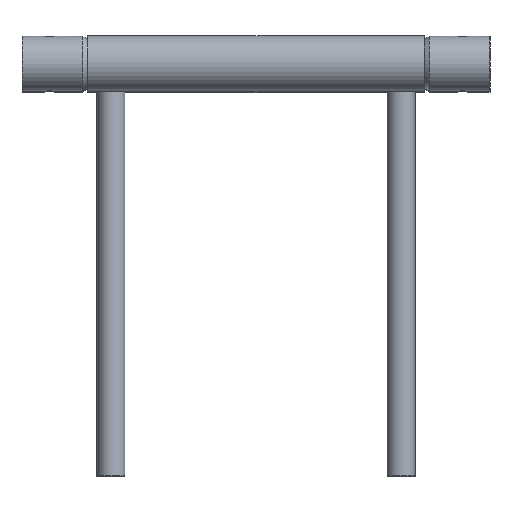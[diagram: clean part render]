
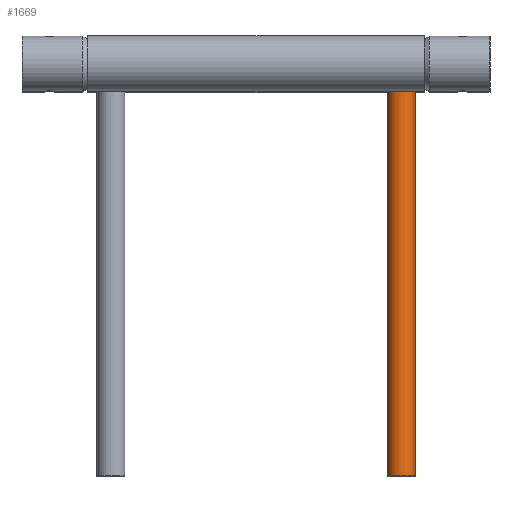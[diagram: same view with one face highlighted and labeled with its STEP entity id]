
A CAD part, top view. The second image highlights one B-rep face of the part: STEP entity #1669.
In plain terms, the highlighted cylindrical face has radius 15 mm (diameter 30 mm), a full revolution.
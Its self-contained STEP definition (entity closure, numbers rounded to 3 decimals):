
#108=FACE_BOUND('',#307,.T.);
#156=CYLINDRICAL_SURFACE('',#1811,15.);
#200=FACE_OUTER_BOUND('',#306,.T.);
#306=EDGE_LOOP('',(#1106,#1107));
#307=EDGE_LOOP('',(#1108,#1109));
#458=CIRCLE('',#1800,15.);
#459=CIRCLE('',#1802,15.);
#464=CIRCLE('',#1808,15.);
#465=CIRCLE('',#1810,15.);
#694=VERTEX_POINT('',#2489);
#695=VERTEX_POINT('',#2490);
#696=VERTEX_POINT('',#2494);
#698=VERTEX_POINT('',#2497);
#853=EDGE_CURVE('',#695,#694,#458,.T.);
#855=EDGE_CURVE('',#698,#696,#459,.T.);
#863=EDGE_CURVE('',#696,#698,#464,.T.);
#864=EDGE_CURVE('',#694,#695,#465,.T.);
#1106=ORIENTED_EDGE('',*,*,#864,.T.);
#1107=ORIENTED_EDGE('',*,*,#853,.T.);
#1108=ORIENTED_EDGE('',*,*,#863,.T.);
#1109=ORIENTED_EDGE('',*,*,#855,.T.);
#1669=ADVANCED_FACE('',(#200,#108),#156,.T.);
#1800=AXIS2_PLACEMENT_3D('',#2492,#2032,#2033);
#1802=AXIS2_PLACEMENT_3D('',#2498,#2037,#2038);
#1808=AXIS2_PLACEMENT_3D('',#2512,#2052,#2053);
#1810=AXIS2_PLACEMENT_3D('',#2514,#2056,#2057);
#1811=AXIS2_PLACEMENT_3D('',#2515,#2058,#2059);
#2032=DIRECTION('center_axis',(0.,1.,0.));
#2033=DIRECTION('ref_axis',(-1.,0.,0.));
#2037=DIRECTION('center_axis',(0.,-1.,0.));
#2038=DIRECTION('ref_axis',(-1.,0.,0.));
#2052=DIRECTION('center_axis',(0.,-1.,0.));
#2053=DIRECTION('ref_axis',(-1.,0.,0.));
#2056=DIRECTION('center_axis',(0.,1.,0.));
#2057=DIRECTION('ref_axis',(-1.,0.,0.));
#2058=DIRECTION('center_axis',(0.,1.,0.));
#2059=DIRECTION('ref_axis',(-1.,0.,0.));
#2489=CARTESIAN_POINT('',(420.,30.,0.));
#2490=CARTESIAN_POINT('',(390.,30.,0.));
#2492=CARTESIAN_POINT('Origin',(405.,30.,0.));
#2494=CARTESIAN_POINT('',(420.,440.,0.));
#2497=CARTESIAN_POINT('',(390.,440.,0.));
#2498=CARTESIAN_POINT('Origin',(405.,440.,0.));
#2512=CARTESIAN_POINT('Origin',(405.,440.,0.));
#2514=CARTESIAN_POINT('Origin',(405.,30.,0.));
#2515=CARTESIAN_POINT('Origin',(405.,235.,0.));
